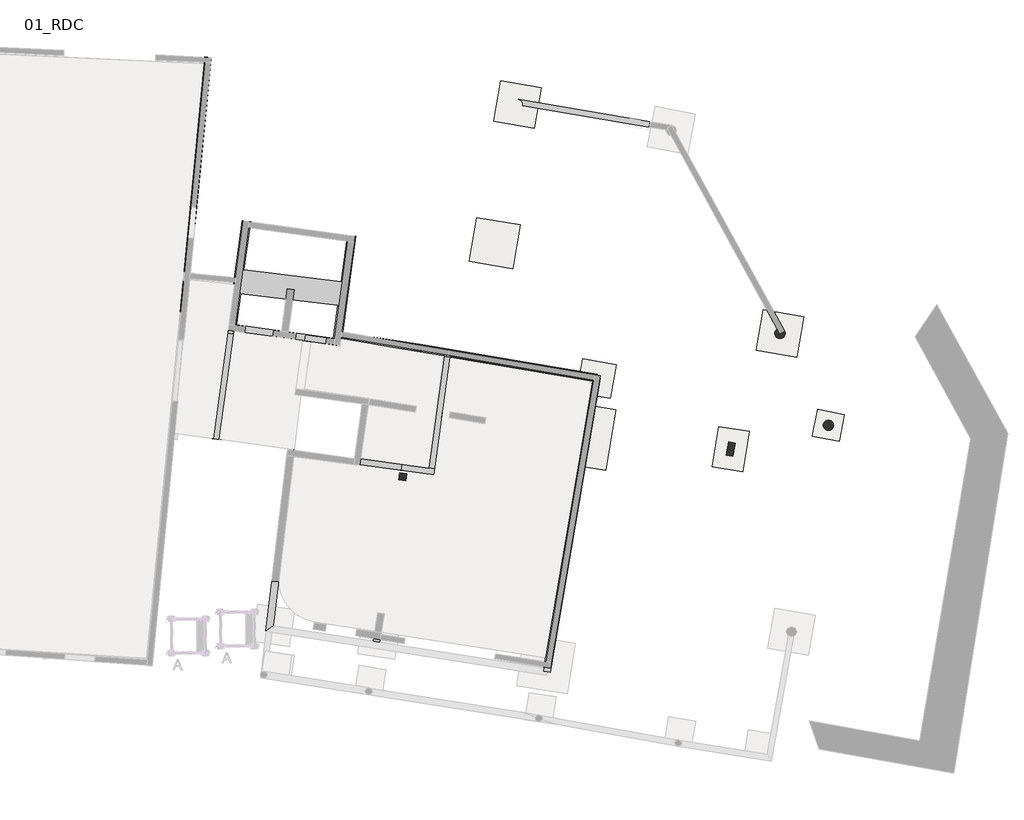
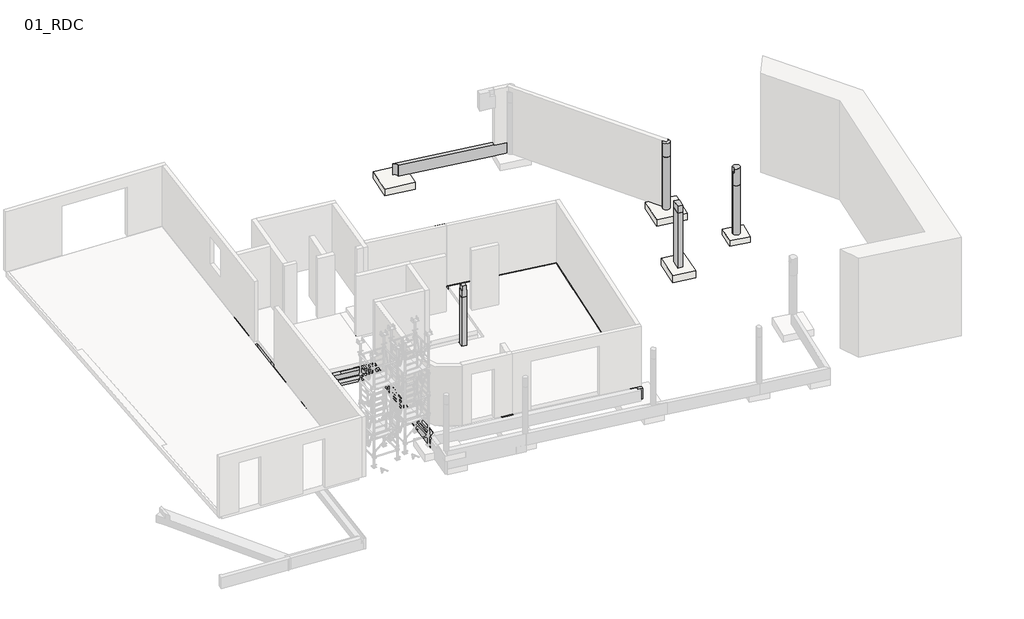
# One storey, part 4 of 5: 18 beams, 7 slabs, 4 columns.
"""IFC4 building model written with IfcOpenShell, lengths in millimetres."""

from ifc_helpers import new_model, si_unit, point, frame, frame_2d, origin, place, context, project, spatial, polyline, circle_curve, trimmed, segment, composite_curve, outline, extrude, faceted_brep, transform, mapped, element, save
from ifc_brep_helpers import plane_surface, cylinder_surface, revolved_surface, advanced_brep
from components import base_rectangulaire_90de8d64, base_rectangulaire_120x120x30_ht_74231e7a, base_rectangulaire_130x130x35_cm_f800fba0, base_rectangulaire_80x80x25_cm_97e52a6d

model = new_model("IFC4")

# Units and contexts
model_context = context("Model", 3, world=origin())
ifc_project = project(units=[si_unit("LENGTHUNIT", "METRE", prefix="MILLI")], contexts=[model_context])

# Site, building, storey
site = spatial("IfcSite", under=ifc_project)
building = spatial("IfcBuilding", under=site)
storey = spatial("IfcBuildingStorey", under=building, Name="01_RDC", Elevation=21740.0)

# Beams
placement = place(None, origin())
element("IfcBeam", 1, ObjectType="Poutre_Rect_2013_JBE : 16x50ht", at=placement, inside=storey, context=model_context, shape_type="AdvancedBrep", body=[
    advanced_brep(
    [(19991.2796527, 14471.8493206, 21470.0), (15481.1637696, 15237.3586937, 21470.0), (15481.1637696, 15237.3586937, 21970.0), (19347.1963618, 14581.170635, 21970.0), (19347.1963618, 14581.170635, 21940.0), (19991.2796527, 14471.8493206, 21940.0), (19991.1626945, 14471.1602433, 21470.0), (19816.9051622, 14339.1578468, 21470.0), (15602.9762725, 15054.3949152, 21470.0), (15605.9460596, 15084.095361, 21470.0), (15480.2728285, 15232.1095776, 21470.0), (15602.9762725, 15054.3949152, 21970.0), (19816.9051622, 14339.1578468, 21940.0), (19320.4222266, 14423.4267106, 21940.0), (19320.4222266, 14423.4267106, 21970.0), (15480.2728285, 15232.1095776, 21970.0), (15605.9460596, 15084.095361, 21970.0), (19991.1626945, 14471.1602433, 21940.0)],
    [
        (0, 1),
        (1, 2),
        (2, 3),
        (3, 4),
        (4, 5),
        (5, 0),
        (0, 6),
        (6, 7, circle_curve(frame((19966.0619427, 14323.2753142, 21470.0), z_axis=(0.0, 0.0, 1.0), x_axis=(1.0, 0.0, 0.0)), 150.0)),
        (7, 8),
        (8, 9, circle_curve(frame((15455.9460596, 15084.095361, 21470.0), z_axis=(0.0, 0.0, 1.0), x_axis=(1.0, 0.0, 0.0)), 150.0)),
        (9, 10, circle_curve(frame((15455.9460596, 15084.095361, 21470.0), z_axis=(0.0, 0.0, 1.0), x_axis=(1.0, 0.0, 0.0)), 150.0)),
        (10, 1),
        (11, 8),
        (7, 12),
        (12, 13),
        (13, 14),
        (14, 11),
        (15, 16, circle_curve(frame((15455.9460596, 15084.095361, 21970.0), z_axis=(0.0, 0.0, -1.0), x_axis=(1.0, 0.0, 0.0)), 150.0)),
        (16, 11, circle_curve(frame((15455.9460596, 15084.095361, 21970.0), z_axis=(0.0, 0.0, -1.0), x_axis=(1.0, 0.0, 0.0)), 150.0)),
        (14, 3),
        (2, 15),
        (6, 17),
        (17, 12, circle_curve(frame((19966.0619427, 14323.2753142, 21940.0), z_axis=(0.0, 0.0, 1.0), x_axis=(1.0, 0.0, 0.0)), 150.0)),
        (9, 16),
        (15, 10),
        (5, 17),
        (4, 13),
    ],
    [
        plane_surface(frame((15481.1637696, 15237.3586937, 21970.0), z_axis=(0.16733834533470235, 0.9858995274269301, 0.0), x_axis=(0.9858995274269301, -0.16733834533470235, 0.0))),
        plane_surface(frame((15481.1637696, 15237.3586937, 21470.0), z_axis=(0.0, 0.0, -1.0000000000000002), x_axis=(0.9858995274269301, -0.16733834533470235, 0.0))),
        plane_surface(frame((15454.3896344, 15079.6147693, 21470.0), z_axis=(-0.16733834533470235, -0.9858995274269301, 0.0), x_axis=(0.9858995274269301, -0.16733834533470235, 0.0))),
        plane_surface(frame((15454.3896344, 15079.6147693, 21970.0), z_axis=(0.0, 0.0, 1.0000000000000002), x_axis=(0.9858995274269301, -0.16733834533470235, 0.0))),
        revolved_surface(polyline([(20116.0619427, 14323.2753142, 21940.0), (20116.0619427, 14323.2753142, 21470.0)]), (19966.0619427, 14323.2753142, 21470.0), (0.0, 0.0, 1.0)),
        revolved_surface(polyline([(15605.9460596, 15084.095361, 21970.0), (15605.9460596, 15084.095361, 21470.0)]), (15455.9460596, 15084.095361, 21470.0), (0.0, 0.0, 1.0)),
        plane_surface(frame((15467.776702, 15158.4867315, 21740.0), z_axis=(-0.98589952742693, 0.16733834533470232, 0.0), x_axis=(0.16733834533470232, 0.98589952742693, 0.0))),
        plane_surface(frame((19977.8925851, 14392.9773584, 21740.0), z_axis=(0.98589952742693, -0.16733834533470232, 0.0), x_axis=(0.16733834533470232, 0.98589952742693, 0.0))),
        plane_surface(frame((19320.4222266, 14423.4267106, 21940.0), z_axis=(0.0, 0.0, 1.0000000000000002), x_axis=(0.16733834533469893, 0.9858995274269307, 0.0))),
        plane_surface(frame((19320.4222266, 14423.4267106, 24440.0), z_axis=(0.9858995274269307, -0.16733834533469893, 0.0), x_axis=(0.16733834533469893, 0.9858995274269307, 0.0))),
    ],
    [
        (0, [[1, 2, 3, 4, 5, 6]]),
        (1, [[-1, 7, 8, 9, 10, 11, 12]]),
        (2, [[13, -9, 14, 15, 16, 17]]),
        (3, [[18, 19, -17, 20, -3, 21]]),
        (4, [[-8, 22, 23, -14]]),
        (5, [[24, -18, 25, -11]]),
        (5, [[-24, -10, -13, -19]]),
        (6, [[-2, -12, -25, -21]]),
        (7, [[-7, -6, 26, -22]]),
        (8, [[27, -15, -23, -26, -5]]),
        (9, [[-27, -4, -20, -16]]),
    ],
),
])
element("IfcBeam", 2, ObjectType="Poutre_Rect_2013_JBE : 18x38ht", at=placement, inside=storey, context=model_context, shape_type="Brep", body=[
    faceted_brep([(8889.9631119, 4965.6993009, 21360.0), (9105.7161917, 6549.5114826, 21360.0), (9105.7161917, 6549.5114826, 21580.0), (8889.9631119, 4965.6993009, 21580.0), (8927.6739062, 6573.7650939, 21360.0), (8711.6103325, 4989.9951045, 21360.0), (8939.5113813, 6662.9837712, 21360.0), (8939.8218592, 6662.9414766, 21360.0), (8711.6103325, 4989.9951045, 21580.0), (8927.5367777, 6575.0799365, 21580.0), (8927.5367786, 6575.0799433, 21740.0), (8939.5113813, 6662.9837712, 21740.0), (8939.5113813, 6662.9837712, 21580.0), (8939.8218592, 6662.9414766, 21740.0), (8927.8469567, 6575.0354332, 21740.0), (8927.6739062, 6573.7650939, 21580.0), (8927.8469567, 6575.0354332, 21580.0)], [[[0, 1, 2, 3]], [[4, 1, 0, 5, 6, 7]], [[6, 5, 8, 9, 10, 11, 12]], [[13, 11, 10, 14]], [[7, 6, 12, 11, 13]], [[1, 4, 15, 2]], [[5, 0, 3, 8]], [[16, 9, 8, 3, 2, 15]], [[9, 16, 14, 10]], [[4, 7, 13, 14, 16, 15]]]),
])
element("IfcBeam", 3, ObjectType="Poutre_Rect_2013_JBE : 18x40ht", at=placement, inside=storey, context=model_context, shape_type="SweptSolid", body=[
    extrude(outline(polyline([(13290.559323, 7707.0019068), (13468.1163602, 7676.8646484), (13022.1130543, 4402.8042135), (12843.7602749, 4427.100017), (13290.559323, 7707.0019068)])), frame((0.0, 0.0, 18890.0), z_axis=(0.0, 0.0, 1.0), x_axis=(1.0, 0.0, 0.0)), (0.0, 0.0, 1.0), 100.0),
])
element("IfcBeam", 4, ObjectType="Poutre_Rect_2013_JBE : 18x50ht", at=placement, inside=storey, context=model_context, shape_type="Brep", body=[
    faceted_brep([(13007.7257385, 4223.1016672, 18490.0), (13032.021542, 4401.4544466, 18490.0), (13032.021542, 4401.4544466, 18790.0), (13007.7257385, 4223.1016672, 18790.0), (10738.6819538, 4532.1982918, 18490.0), (12050.9905985, 4353.431282, 18790.0), (12050.9905985, 4353.431282, 18590.0), (10738.6819538, 4532.1982918, 18590.0), (10762.9778639, 4710.5510567, 18490.0), (10852.1542536, 4698.4031549, 18490.0), (10762.9778639, 4710.5510567, 18590.0), (12081.1413089, 4530.9864867, 18590.0), (12081.1413089, 4530.9864867, 18790.0)], [[[0, 1, 2, 3]], [[4, 0, 3, 5, 6, 7]], [[1, 0, 4, 8, 9]], [[2, 1, 9, 8, 10, 11, 12]], [[8, 4, 7, 10]], [[3, 2, 12, 5]], [[6, 11, 10, 7]], [[11, 6, 5, 12]]]),
])
element("IfcBeam", 5, ObjectType="Poutre_Rect_2013_JBE : 20x50ht", at=placement, inside=storey, context=model_context, shape_type="Brep", body=[
    faceted_brep([(6480.1908575, 16459.4235534, 18990.0), (6480.1908575, 16459.4235534, 18490.0), (6281.1407174, 16478.8925464, 18490.0), (6281.1407174, 16478.8925464, 18990.0), (5663.9736381, 10169.0031024, 18490.0), (5863.0237783, 10149.5341093, 18490.0), (5863.0237783, 10149.5341093, 18990.0), (5697.0231221, 10165.7705491, 18990.0), (5697.0231221, 10165.7705491, 18790.0), (5663.9736381, 10169.0031024, 18790.0), (6264.8089536, 16311.9173018, 18790.0), (6264.8089536, 16311.9173018, 18990.0), (6293.3502984, 16310.5332659, 18990.0), (6293.3502984, 16310.5332659, 18790.0)], [[[0, 1, 2, 3]], [[4, 5, 6, 7, 8, 9]], [[1, 0, 6, 5]], [[2, 1, 5, 4]], [[3, 2, 4, 9, 10, 11]], [[0, 3, 11, 12, 7, 6]], [[8, 13, 10, 9]], [[13, 12, 11, 10]], [[12, 13, 8, 7]]]),
])
element("IfcBeam", 6, ObjectType="Poutre_Rect_2013_JBE : 20x50ht", at=placement, inside=storey, context=model_context, shape_type="Brep", body=[
    faceted_brep([(7214.4496833, 8621.8960762, 18990.0), (10055.3532785, 8232.7487058, 18990.0), (10055.3532785, 8232.7487058, 18790.0), (7214.4496833, 8621.8960762, 18790.0), (7187.3071176, 8423.7464329, 18990.0), (10275.8977668, 8000.6708554, 18990.0), (10245.0151155, 8033.1685133, 18990.0), (10242.5944936, 8015.3934284, 18990.0), (9208.4149254, 8156.2747313, 18990.0), (9232.7110596, 8334.6274657, 18990.0), (10066.4723317, 8221.0481823, 18990.0), (10242.5944936, 8015.3934284, 18790.0), (10245.0151155, 8033.1685133, 18790.0), (10064.241759, 8039.6895627, 18790.0), (9208.4149254, 8156.2747313, 18790.0), (9232.7110596, 8334.6274657, 18790.0), (10066.4723317, 8221.0481823, 18790.0), (10275.8977668, 8000.6708554, 18790.0), (7187.3071176, 8423.7464329, 18790.0)], [[[0, 1, 2, 3]], [[0, 4, 5, 6, 7, 8, 9, 10, 1]], [[11, 7, 6, 12]], [[7, 11, 13, 14, 8]], [[10, 9, 15, 16]], [[15, 9, 8, 14]], [[3, 2, 16, 15, 14, 13, 11, 12, 17, 18]], [[5, 4, 18, 17]], [[1, 10, 16, 2]], [[6, 5, 17, 12]], [[4, 0, 3, 18]]]),
    faceted_brep([(10055.3532785, 8232.7487058, 18490.0), (10275.8977668, 8000.6708554, 18490.0), (7187.3071176, 8423.7464329, 18490.0), (7214.4496833, 8621.8960762, 18490.0), (10275.8977668, 8000.6708554, 18590.0), (7187.3071176, 8423.7464329, 18590.0), (10055.3532785, 8232.7487058, 18590.0), (7214.4496833, 8621.8960762, 18590.0)], [[[0, 1, 2, 3]], [[2, 1, 4, 5]], [[1, 0, 6, 4]], [[3, 2, 5, 7]], [[6, 7, 5, 4]], [[0, 3, 7, 6]]]),
])
element("IfcBeam", 7, ObjectType="Poutre_Rect_2013_JBE : 20x50ht", at=placement, inside=storey, context=model_context, shape_type="Brep", body=[
    faceted_brep([(13474.7515979, 7675.7384307, 18990.0), (13474.7515979, 7675.7384307, 18490.0), (13508.2194947, 7872.9182975, 18490.0), (13508.2194947, 7872.9182975, 18990.0), (13468.1163602, 7676.8646484, 18990.0), (13290.559323, 7707.0019068, 18990.0), (13280.6950431, 7708.6761989, 18990.0), (10305.0833494, 8213.7351927, 18990.0), (10305.0833494, 8213.7351927, 18790.0), (12639.2343232, 7817.5531422, 18790.0), (12639.2343232, 7817.5531422, 18590.0), (10305.0833494, 8213.7351927, 18590.0), (10305.0833494, 8213.7351927, 18490.0), (10332.239816, 8411.9863165, 18490.0), (10332.239816, 8411.9863165, 18990.0), (13307.7048557, 7906.9522147, 18990.0), (13504.9904525, 7873.466372, 18990.0), (10310.4203579, 8252.6971075, 18590.0), (10310.4203579, 8252.6971075, 18790.0), (12645.7847462, 7856.1280773, 18590.0), (12645.7847462, 7856.1280773, 18790.0)], [[[0, 1, 2, 3]], [[1, 0, 4, 5, 6, 7, 8, 9, 10, 11, 12]], [[2, 1, 12, 13]], [[3, 2, 13, 14, 15, 16]], [[0, 3, 16, 15, 14, 7, 6, 5, 4]], [[13, 12, 11, 17, 18, 8, 7, 14]], [[10, 19, 17, 11]], [[18, 20, 9, 8]], [[19, 20, 18, 17]], [[20, 19, 10, 9]]]),
])
element("IfcBeam", 8, ObjectType="Poutre_Rect_2013_JBE : 20x50ht", at=placement, inside=storey, context=model_context, shape_type="Brep", body=[
    faceted_brep([(12682.66215, 8034.8558487, 21740.0), (12682.66215, 8034.8558487, 21240.0), (12679.0633832, 8013.6533108, 21240.0), (12679.0633832, 8013.6533108, 21740.0), (13480.8849759, 7696.5107618, 21740.0), (13480.8849759, 7696.5107618, 21240.0), (17661.369599, 6986.9452759, 21240.0), (17661.369599, 6986.9452759, 21740.0), (17793.4272015, 7167.391233, 21240.0), (17776.693367, 7068.8012802, 21240.0), (17678.1034142, 7085.5351148, 21240.0), (13504.9904525, 7873.466372, 21240.0), (17793.4272015, 7167.391233, 21740.0), (13307.7048557, 7906.9522147, 21740.0), (13504.9904525, 7873.466372, 21740.0), (17678.1034142, 7085.5351148, 21740.0), (17776.693367, 7068.8012802, 21740.0)], [[[0, 1, 2, 3]], [[4, 5, 6, 7]], [[1, 8, 9, 10, 6, 5, 11, 2]], [[1, 0, 12, 8]], [[12, 0, 3, 13, 14, 4, 7, 15, 16]], [[14, 11, 5, 4]], [[11, 14, 13, 3, 2]], [[8, 12, 16, 9]], [[15, 10, 9, 16]], [[10, 15, 7, 6]]]),
])
element("IfcBeam", 9, ObjectType="Poutre_Rect_2013_JBE : 20x50ht", at=placement, inside=storey, context=model_context, shape_type="Brep", body=[
    faceted_brep([(12650.4936255, 7837.4642257, 21740.0), (12650.4936255, 7837.4642257, 21240.0), (12681.3627776, 8035.0676048, 21240.0), (12681.3627776, 8035.0676048, 21740.0), (11067.3626498, 8287.2030475, 21740.0), (11067.3626498, 8287.2030475, 21240.0), (11036.4934976, 8089.5996683, 21240.0), (11036.4934976, 8089.5996683, 21510.0), (11037.8423089, 8098.2338434, 21510.0), (11037.8423089, 8098.2338434, 21740.0), (11692.2870369, 7987.1530877, 21740.0), (11692.2870369, 7987.1530877, 21510.0)], [[[0, 1, 2, 3]], [[4, 5, 6, 7, 8, 9]], [[1, 0, 10, 11, 7, 6]], [[2, 1, 6, 5]], [[3, 2, 5, 4]], [[0, 3, 4, 9, 10]], [[11, 8, 7]], [[8, 11, 10, 9]]]),
])
element("IfcBeam", 10, ObjectType="Poutre_Rect_2013_JBE : 20x50ht", at=placement, inside=storey, context=model_context, shape_type="Brep", body=[
    faceted_brep([(17756.3616489, 6949.0138449, 21740.0), (17756.3616489, 6949.0138449, 21240.0), (17776.693367, 7068.8012802, 21240.0), (17789.829318, 7146.1937503, 21240.0), (17789.829318, 7146.1937503, 21740.0), (17776.693367, 7068.8012802, 21740.0), (17657.7716962, 6965.7476794, 21740.0), (13379.3378421, 7691.9332813, 21740.0), (13379.3378421, 7691.9332813, 21240.0), (17657.7716962, 6965.7476794, 21240.0), (13406.3476536, 7890.2092896, 21240.0), (13406.3476536, 7890.2092896, 21740.0)], [[[0, 1, 2, 3, 4, 5]], [[1, 0, 6, 7, 8, 9]], [[3, 2, 1, 9, 8, 10]], [[4, 3, 10, 11]], [[0, 5, 4, 11, 7, 6]], [[7, 11, 10, 8]]]),
])
element("IfcBeam", 11, ObjectType="Poutre_Rect_2013_JBE : 20x50ht", at=placement, inside=storey, context=model_context, shape_type="Brep", body=[
    faceted_brep([(16215.566276, -1531.2267549, 21740.0), (16215.566276, -1531.2267549, 21240.0), (16314.1562288, -1547.9605895, 21240.0), (16412.7461815, -1564.694424, 21240.0), (16412.7461815, -1564.694424, 21740.0), (16314.1562288, -1547.9605895, 21740.0), (17875.2833197, 7052.0674457, 21740.0), (17875.2833197, 7052.0674457, 21240.0), (17776.693367, 7068.8012802, 21240.0), (17776.693367, 7068.8012802, 21740.0), (16232.0812623, -1433.9261801, 21740.0), (17358.2985513, 5201.355714, 21740.0), (17391.7662204, 5398.5356194, 21740.0), (17657.7716962, 6965.7476794, 21740.0), (17657.7716962, 6965.7476794, 21240.0), (17391.7662204, 5398.5356194, 21240.0), (17358.2985513, 5201.355714, 21240.0), (16232.0812623, -1433.9261801, 21240.0), (17756.3616489, 6949.0138449, 21240.0), (17756.3616489, 6949.0138449, 21740.0)], [[[0, 1, 2, 3, 4, 5]], [[6, 7, 8, 9]], [[1, 0, 10, 11, 12, 13, 14, 15, 16, 17]], [[3, 2, 1, 17, 16, 15, 14, 18, 8, 7]], [[4, 3, 7, 6]], [[0, 5, 4, 6, 9, 19, 13, 12, 11, 10]], [[18, 19, 9, 8]], [[19, 18, 14, 13]]]),
])
element("IfcBeam", 12, ObjectType="Poutre_Rect_2013_JBE : 20x50ht", at=placement, inside=storey, context=model_context, shape_type="Brep", body=[
    faceted_brep([(8293.8700266, -193.836809, 21740.0), (8293.8700266, -193.836809, 21240.0), (8900.8346114, 4782.5559155, 21240.0), (8900.8346114, 4782.5559155, 21740.0), (8071.9270956, -361.5910753, 21240.0), (8702.645377, 4809.5539064, 21240.0), (8071.9270956, -361.5910753, 21579.7), (8702.4579048, 4808.0168559, 21579.7), (8702.4579048, 4808.0168559, 21739.7), (8071.9270956, -361.5910753, 21739.7), (8071.9270956, -361.5910753, 21740.0), (8702.645377, 4809.5539064, 21740.0), (8281.201859, -203.4119693, 21739.7), (8281.201859, -203.4119693, 21579.7), (8720.5694026, 3411.5349004, 21579.7), (8887.8168754, 4782.7666459, 21579.7), (8887.8168754, 4782.7666459, 21739.7), (8720.5694026, 3411.5349004, 21739.7)], [[[0, 1, 2, 3]], [[1, 4, 5, 2]], [[4, 6, 7, 8, 9, 10, 11, 5]], [[10, 0, 3, 11]], [[0, 10, 9, 12, 13, 6, 4, 1]], [[14, 15, 7, 6, 13]], [[16, 17, 12, 9, 8]], [[17, 14, 13, 12]], [[15, 16, 8, 7]], [[15, 14, 17, 16]], [[3, 2, 5, 11]]]),
])
element("IfcBeam", 13, ObjectType="Poutre_Rect_2013_JBE : 20x50ht", at=placement, inside=storey, context=model_context, shape_type="Brep", body=[
    faceted_brep([(12231.9663776, 4510.4405986, 21240.0), (12469.5258319, 6031.1351335, 21240.0), (12500.397659, 6228.7556355, 21240.0), (12745.7711516, 7799.4703449, 21240.0), (12745.7711516, 7799.4703449, 21510.0), (12500.397659, 6228.7556355, 21510.0), (12469.5258319, 6031.1351335, 21510.0), (12231.9663776, 4510.4405986, 21510.0), (12548.5741956, 7832.9411423, 21240.0), (12033.758648, 4537.4411089, 21240.0), (12272.3288403, 6064.6057026, 21240.0), (12303.2006673, 6262.2262046, 21240.0), (12033.758648, 4537.4411089, 21510.0), (12272.3288403, 6064.6057026, 21510.0), (12303.2006673, 6262.2262046, 21510.0), (12548.5741956, 7832.9411423, 21510.0)], [[[0, 1, 2, 3, 4, 5, 6, 7]], [[8, 3, 2, 1, 0, 9, 10, 11]], [[8, 11, 10, 9, 12, 13, 14, 15]], [[3, 8, 15, 4]], [[9, 0, 7, 12]], [[7, 6, 5, 4, 15, 14, 13, 12]]]),
    faceted_brep([(11420.7661102, -682.3134296, 21240.0), (11420.7661102, -682.3134296, 21740.0), (11223.162731, -651.4442774, 21740.0), (11223.162731, -651.4442774, 21240.0), (11268.1257774, -363.6213444, 21580.0), (11465.7272599, -394.5026379, 21580.0), (12203.9311908, 4330.9783438, 21580.0), (12005.7235844, 4357.9796423, 21580.0), (12203.9311908, 4330.9783438, 21740.0), (12005.7235844, 4357.9796423, 21740.0), (11268.1257774, -363.6213444, 21740.0), (11465.7272599, -394.5026379, 21740.0), (12204.1788169, 4332.5634778, 21740.0), (12204.1788169, 4332.5634778, 21240.0), (12005.9710873, 4359.5639882, 21240.0), (12005.9710873, 4359.5639882, 21740.0)], [[[0, 1, 2, 3]], [[4, 5, 6, 7]], [[7, 6, 8, 9]], [[5, 4, 10, 11]], [[2, 1, 11, 10]], [[12, 13, 14, 15]], [[1, 0, 13, 12, 8, 6, 5, 11]], [[0, 3, 14, 13]], [[3, 2, 10, 4, 7, 9, 15, 14]], [[9, 8, 12, 15]]]),
])
element("IfcBeam", 14, ObjectType="Poutre_Rect_2013_JBE : 20x50ht", at=placement, inside=storey, context=model_context, shape_type="Brep", body=[
    faceted_brep([(17358.2985513, 5201.355714, 21240.0), (17358.2985513, 5201.355714, 21740.0), (17348.4380179, 5203.0293585, 21740.0), (17348.4380179, 5203.0293585, 21580.0), (13236.2952851, 5900.9900954, 21580.0), (13236.293278, 5900.9904361, 21240.0), (17391.7662204, 5398.5356194, 21240.0), (13263.3030895, 6099.2664443, 21240.0), (17391.7662204, 5398.5356194, 21740.0), (13263.3030895, 6099.2664443, 21580.0), (17381.905687, 5400.209264, 21580.0), (17381.905687, 5400.209264, 21740.0)], [[[0, 1, 2, 3, 4, 5]], [[6, 0, 5, 7]], [[8, 6, 7, 9, 10, 11]], [[1, 8, 11, 2]], [[1, 0, 6, 8]], [[3, 10, 9, 4]], [[10, 3, 2, 11]], [[5, 4, 9, 7]]]),
    faceted_brep([(11005.9472776, 6472.3170748, 21240.0), (11092.2030898, 6460.5669732, 21240.0), (11092.2030898, 6460.5669732, 21510.0), (11005.9472776, 6472.3170748, 21510.0), (11066.1523182, 6269.3320239, 21240.0), (11066.1523182, 6269.3320239, 21510.0), (11007.6125863, 6482.1284966, 21240.0), (11007.6125863, 6482.1284966, 21510.0), (12272.3288403, 6064.6057026, 21240.0), (12303.2006673, 6262.2262046, 21240.0), (12303.2006673, 6262.2262046, 21510.0), (12272.3288403, 6064.6057026, 21510.0)], [[[0, 1, 2, 3]], [[1, 4, 5, 2]], [[6, 0, 3, 7]], [[8, 9, 10, 11]], [[4, 8, 11, 5]], [[0, 6, 9, 8, 4, 1]], [[9, 6, 7, 10]], [[3, 2, 5, 11, 10, 7]]]),
    faceted_brep([(12500.397659, 6228.7556355, 21240.0), (12469.5258319, 6031.1351335, 21240.0), (12469.5258319, 6031.1351335, 21510.0), (12500.397659, 6228.7556355, 21510.0), (13039.0076499, 5934.4760496, 21240.0), (13066.0174614, 6132.7520579, 21240.0), (13066.0174614, 6132.7520579, 21510.0), (13039.0076499, 5934.4760496, 21510.0)], [[[0, 1, 2, 3]], [[4, 5, 6, 7]], [[1, 4, 7, 2]], [[1, 0, 5, 4]], [[5, 0, 3, 6]], [[3, 2, 7, 6]]]),
])
element("IfcBeam", 15, ObjectType="Poutre_Rect_2013_JBE : 20x90ht", at=placement, inside=storey, context=model_context, shape_type="Brep", body=[
    faceted_brep([(5833.9179313, 9903.0673823, 20840.0), (5822.8896161, 9904.1511135, 20840.0), (5822.8896161, 9904.1511135, 21740.0), (5833.9179313, 9903.0673823, 21740.0), (5833.9179313, 9903.0673823, 21739.3), (5826.4364882, 9903.8025692, 21739.3), (5826.4364882, 9903.8025692, 21579.3), (5833.9179313, 9903.0673823, 21579.3), (5544.9034043, 9007.0369122, 20840.0), (5743.9446809, 8987.47751, 20840.0), (5743.9446809, 8987.47751, 21579.3), (5737.5712097, 8988.1038187, 21579.3), (5737.5712097, 8988.1038187, 21739.3), (5743.9446809, 8987.47751, 21739.3), (5743.9446809, 8987.47751, 21740.0), (5554.8554062, 9006.0589482, 21740.0), (5554.8554062, 9006.0589482, 21510.0), (5544.9034043, 9007.0369122, 21510.0), (5634.8766547, 9922.6267845, 20840.0), (5643.7523434, 9921.7545877, 20840.0), (5643.5584676, 9919.7575422, 20840.0), (5822.7161863, 9902.3646752, 20840.0), (5634.8766547, 9922.6267845, 21510.0), (5822.7161863, 9902.3646752, 21740.0), (5643.5584676, 9919.7575422, 21740.0), (5643.7523434, 9921.7545877, 21510.0), (5643.5584676, 9919.7575422, 21510.0)], [[[0, 1, 2, 3, 4, 5, 6, 7]], [[8, 9, 10, 11, 12, 13, 14, 15, 16, 17]], [[3, 14, 13, 4]], [[9, 8, 18, 19, 20, 21, 1, 0]], [[18, 8, 17, 22]], [[14, 3, 2, 23, 24, 15]], [[20, 19, 25, 26]], [[21, 23, 2, 1]], [[23, 21, 20, 26, 24]], [[19, 18, 22, 25]], [[17, 16, 26, 25, 22]], [[16, 15, 24, 26]], [[6, 11, 10, 7]], [[12, 5, 4, 13]], [[11, 6, 5, 12]], [[9, 0, 7, 10]]]),
])
element("IfcBeam", 16, ObjectType="Poutre_Rect_2013_JBE : 25x50ht", at=placement, inside=storey, context=model_context, shape_type="Brep", body=[
    faceted_brep([(6753.2669636, 5255.1107755, 18990.0), (6505.5799096, 5289.0389827, 18990.0), (6505.5799096, 5289.0389827, 18790.0), (6753.2669636, 5255.1107755, 18790.0), (7628.1964811, 11642.3835701, 18490.0), (7380.5094271, 11676.3117772, 18490.0), (7380.5094271, 11676.3117772, 18990.0), (7410.506314, 11672.2027995, 18990.0), (7410.506314, 11672.2027995, 18790.0), (7588.840993, 11647.7744903, 18790.0), (7628.1964811, 11642.3835701, 18790.0), (6505.5799096, 5289.0389827, 18490.0), (6505.5799096, 5289.0389827, 18590.0), (7131.0522929, 9855.1927789, 18590.0), (7131.0522929, 9855.1927789, 18790.0), (6753.2669636, 5255.1107755, 18490.0), (7435.1339518, 10232.9637061, 18490.0), (7306.3502671, 10248.6712959, 18490.0), (7211.3404789, 9555.0720114, 18490.0), (7340.1246175, 9539.3643662, 18490.0), (7214.4496833, 8621.8960762, 18490.0), (7187.3071176, 8423.7464329, 18490.0), (7340.1246175, 9539.3643662, 18590.0), (6753.2669636, 5255.1107755, 18590.0), (7187.3071176, 8423.7464329, 18990.0), (7214.4496833, 8621.8960762, 18990.0), (7340.1246175, 9539.3643662, 18990.0), (7300.6881572, 9544.1743834, 18990.0), (7137.3237804, 8351.56658, 18990.0), (6958.9891174, 8375.9950056, 18990.0), (7155.631738, 9811.5437363, 18990.0), (7182.7941059, 10009.8369783, 18990.0), (7603.768172, 11464.0488911, 18790.0), (7564.4125673, 11469.4398273, 18790.0), (7564.4125673, 11469.4398273, 18990.0), (7603.768172, 11464.0488911, 18990.0), (7161.2044527, 9852.2261864, 18790.0), (7250.8369038, 9843.4074827, 18790.0), (7306.3502671, 10248.6712959, 18790.0), (7395.6979455, 10237.7736679, 18790.0), (7340.1246175, 9539.3643662, 18790.0), (7300.6881572, 9544.1743834, 18790.0), (7435.1339518, 10232.9637061, 18590.0), (7402.6386996, 10236.9271126, 18590.0), (7402.6386996, 10236.9271126, 18790.0), (7435.1339518, 10232.9637061, 18790.0), (7435.1339518, 10232.9637061, 18990.0), (7395.6979455, 10237.7736679, 18990.0), (7250.8369038, 9843.4074827, 18590.0), (7211.3404789, 9555.0720114, 18590.0), (7602.4333388, 11454.3041708, 18790.0), (7602.4333388, 11454.3041708, 18590.0), (7570.7251909, 11458.6220734, 18790.0), (7570.7251909, 11458.6220734, 18590.0), (6958.9891174, 8375.9950056, 18790.0), (7137.3237804, 8351.56658, 18790.0)], [[[0, 1, 2, 3]], [[4, 5, 6, 7, 8, 9, 10]], [[6, 5, 11, 12, 13, 14, 2, 1]], [[15, 11, 5, 4, 16, 17, 18, 19, 20, 21]], [[15, 21, 20, 19, 22, 23]], [[1, 0, 24, 25, 26, 27, 28, 29, 30, 31, 7, 6]], [[32, 33, 34, 35]], [[33, 32, 10, 9, 8, 36, 37, 38, 39]], [[26, 40, 41, 27]], [[17, 16, 42, 43, 44, 45, 46, 47, 39, 38]], [[18, 17, 38, 37, 48, 49]], [[32, 35, 46, 45, 50, 51, 42, 16, 4, 10]], [[48, 13, 12, 23, 22, 49]], [[44, 52, 50, 45]], [[53, 52, 44, 43]], [[52, 53, 51, 50]], [[13, 48, 37, 36, 14]], [[11, 15, 23, 12]], [[26, 25, 24, 0, 3, 40]], [[19, 18, 49, 22]], [[51, 53, 43, 42]], [[3, 2, 14, 36, 54, 55, 41, 40]], [[55, 28, 27, 41]], [[36, 8, 7, 31, 30, 29, 54]], [[28, 55, 54, 29]], [[35, 34, 47, 46]], [[33, 39, 47, 34]]]),
])
element("IfcBeam", 17, ObjectType="Poutre_Rect_2013_JBE : 25x50ht", at=placement, inside=storey, context=model_context, shape_type="Brep", body=[
    faceted_brep([(10716.7871304, 11219.3079925, 18990.0), (10716.7871304, 11219.3079925, 18490.0), (10469.1000763, 11253.2361997, 18490.0), (10469.1000763, 11253.2361997, 18790.0), (10679.5992344, 11224.4019957, 18790.0), (10679.5992344, 11224.4019957, 18990.0), (10332.239816, 8411.9863165, 18490.0), (10305.0833494, 8213.7351927, 18490.0), (10275.8977668, 8000.6708554, 18490.0), (10055.3532785, 8232.7487058, 18490.0), (10186.7738469, 9192.1620124, 18490.0), (10309.9705863, 9177.1358555, 18490.0), (10404.4344273, 9870.8017285, 18490.0), (10281.7831811, 9885.7613522, 18490.0), (10332.239816, 8411.9863165, 18990.0), (10305.0833494, 8213.7351927, 18990.0), (10275.8977668, 8000.6708554, 18990.0), (10275.8977668, 8000.6708554, 18790.0), (10305.0833494, 8213.7351927, 18790.0), (10310.4203579, 8252.6971075, 18790.0), (10310.4203579, 8252.6971075, 18590.0), (10305.0833494, 8213.7351927, 18590.0), (10275.8977668, 8000.6708554, 18590.0), (10315.0877577, 9881.6992334, 18990.0), (10315.0877577, 9881.6992334, 18790.0), (10475.957724, 11062.9978597, 18790.0), (10476.9761643, 11070.4764599, 18790.0), (10476.9761643, 11070.4764599, 18990.0), (10275.7132507, 8258.5907333, 18790.0), (10245.0151155, 8033.1685133, 18790.0), (10245.0151155, 8033.1685133, 18990.0), (10270.4063315, 8219.6210211, 18990.0), (10297.4078713, 8417.898441, 18990.0), (10404.4344273, 9870.8017285, 18790.0), (10309.9705863, 9177.1358555, 18790.0), (10225.9310796, 9187.3860522, 18790.0), (10102.1969994, 8288.0555876, 18790.0), (10444.6717671, 11074.9015208, 18790.0), (10483.838842, 11061.9246371, 18790.0), (10321.352792, 9880.9350948, 18790.0), (10186.7738469, 9192.1620124, 18590.0), (10225.9310796, 9187.3860522, 18590.0), (10321.352792, 9880.9350948, 18590.0), (10281.7831811, 9885.7613522, 18590.0), (10443.6439656, 11067.3982322, 18590.0), (10443.6439656, 11067.3982322, 18790.0), (10281.7831811, 9885.7613522, 18790.0), (10281.7831811, 9885.7613522, 18990.0), (10444.6717671, 11074.9015208, 18990.0), (10102.1969994, 8288.0555876, 18590.0), (10055.3532785, 8232.7487058, 18590.0), (10483.838842, 11061.9246371, 18590.0)], [[[0, 1, 2, 3, 4, 5]], [[2, 1, 6, 7, 8, 9, 10, 11, 12, 13]], [[1, 0, 14, 15, 16, 17, 18, 19, 20, 21, 22, 8, 7, 6]], [[23, 24, 25, 26, 27]], [[5, 4, 28, 29, 30, 31, 32]], [[33, 34, 35, 36, 28, 4, 3, 37, 26, 25, 38, 39]], [[34, 11, 10, 40, 41, 35]], [[12, 33, 39, 42, 43, 13]], [[11, 34, 33, 12]], [[2, 13, 43, 44, 45, 46, 47, 48, 37, 3]], [[23, 27, 48, 47]], [[20, 49, 41, 40, 50, 22, 21]], [[45, 25, 24, 46]], [[51, 38, 25, 45, 44]], [[38, 51, 42, 39]], [[36, 49, 20, 19, 28]], [[10, 9, 50, 40]], [[24, 23, 47, 46]], [[16, 30, 29, 17]], [[9, 8, 22, 50]], [[42, 51, 44, 43]], [[28, 19, 18, 17, 29]], [[49, 36, 35, 41]], [[26, 37, 48, 27]], [[16, 15, 14, 0, 5, 32, 31, 30]]]),
    faceted_brep([(10055.3532785, 8232.7487058, 18790.0), (10055.3532785, 8232.7487058, 18990.0), (10186.7738469, 9192.1620124, 18990.0), (10186.7738469, 9192.1620124, 18790.0), (10220.6239167, 9188.0333604, 18990.0), (10066.4723317, 8221.0481823, 18990.0), (10088.5300878, 8218.0433604, 18990.0), (10220.6239167, 9188.0333604, 18790.0), (10088.5300878, 8218.0433604, 18790.0), (10066.4723317, 8221.0481823, 18790.0)], [[[0, 1, 2, 3]], [[4, 2, 1, 5, 6]], [[7, 4, 6, 8]], [[8, 6, 5, 9]], [[5, 1, 0, 9]], [[4, 7, 3, 2]], [[0, 3, 7, 8, 9]]]),
])
element("IfcBeam", 18, ObjectType="Poutre_Rect_2013_JBE : 70x50ht", at=placement, inside=storey, context=model_context, shape_type="Brep", body=[
    faceted_brep([(10220.6239167, 9188.0333604, 18790.0), (10220.6239167, 9188.0333604, 18990.0), (10186.7738469, 9192.1620124, 18990.0), (7340.1246175, 9539.3643662, 18990.0), (7300.6881572, 9544.1743834, 18990.0), (7300.6881572, 9544.1743834, 18790.0), (7340.1246175, 9539.3643662, 18790.0), (10186.7738469, 9192.1620124, 18790.0), (10309.9705863, 9177.1358555, 18490.0), (10186.7738469, 9192.1620124, 18490.0), (7340.1246175, 9539.3643662, 18490.0), (7211.3404789, 9555.0720114, 18490.0), (7306.3502671, 10248.6712959, 18490.0), (7435.1339518, 10232.9637061, 18490.0), (10281.7831811, 9885.7613522, 18490.0), (10404.4344273, 9870.8017285, 18490.0), (7306.3502671, 10248.6712959, 18790.0), (7395.6979455, 10237.7736679, 18790.0), (7395.6979455, 10237.7736679, 18990.0), (7435.1339518, 10232.9637061, 18990.0), (10281.7831811, 9885.7613522, 18990.0), (10315.0877577, 9881.6992334, 18990.0), (10315.0877577, 9881.6992334, 18790.0), (10281.7831811, 9885.7613522, 18790.0), (7435.1339518, 10232.9637061, 18790.0), (7402.6386996, 10236.9271126, 18790.0), (7402.6386996, 10236.9271126, 18590.0), (7435.1339518, 10232.9637061, 18590.0), (10281.7831811, 9885.7613522, 18590.0), (10321.352792, 9880.9350948, 18590.0), (10321.352792, 9880.9350948, 18790.0), (10404.4344273, 9870.8017285, 18790.0), (10309.9705863, 9177.1358555, 18790.0), (7211.3404789, 9555.0720114, 18590.0), (7250.8369038, 9843.4074827, 18590.0), (7250.8369038, 9843.4074827, 18790.0), (10225.9310796, 9187.3860522, 18790.0), (7347.1921117, 9833.9273444, 18590.0), (7340.1246175, 9539.3643662, 18590.0), (10186.7738469, 9192.1620124, 18590.0), (10225.9310796, 9187.3860522, 18590.0), (7347.1921117, 9833.9273444, 18790.0), (7340.4693549, 9834.588779, 18790.0)], [[[0, 1, 2, 3, 4, 5, 6, 7]], [[8, 9, 10, 11, 12, 13, 14, 15]], [[15, 14, 13, 12, 16, 17, 18, 19, 20, 21, 22, 23, 24, 25, 26, 27, 28, 29, 30, 31]], [[1, 21, 20, 19, 18, 4, 3, 2]], [[8, 15, 31, 32]], [[12, 11, 33, 34, 35, 16]], [[1, 0, 22, 21]], [[32, 31, 30, 36]], [[37, 34, 33, 38, 39, 40, 29, 28, 27, 26]], [[41, 25, 24, 23, 22, 0, 7, 6, 5, 42]], [[41, 37, 26, 25]], [[29, 40, 36, 30]], [[37, 41, 42, 35, 34]], [[11, 10, 9, 8, 32, 36, 40, 39, 38, 33]], [[17, 42, 5, 4, 18]], [[42, 17, 16, 35]]]),
])

# Columns
element("IfcColumn", 19, ObjectType="Pot_Carré_2013_JBE : 20x40", at=placement, inside=storey, context=model_context, shape_type="SolidModel", body=[
    faceted_brep([(12151.9543128, 4056.4308614, 24440.0), (12179.0650675, 4234.190198, 24440.0), (12021.6337405, 4258.7837631, 24440.0), (11993.8685095, 4081.1393145, 24440.0), (12004.9979718, 4281.8279631, 23940.0), (11974.113388, 4084.2269953, 23940.0), (11974.113388, 4084.2269953, 24240.0), (12004.9979718, 4281.8279631, 24240.0), (12171.7143558, 4053.3424114, 23940.0), (12171.7143558, 4053.3424114, 24240.0), (12151.9542585, 4056.4308699, 24240.0), (11993.8685095, 4081.1393145, 24240.0), (12202.5989397, 4250.9433792, 23940.0), (12202.5989397, 4250.9433792, 24240.0), (12021.6337405, 4258.7837631, 24240.0), (12179.0650675, 4234.190198, 24240.0)], [[[0, 1, 2, 3]], [[4, 5, 6, 7]], [[5, 8, 9, 10, 0, 3, 11, 6]], [[8, 12, 13, 9]], [[12, 4, 7, 13]], [[5, 4, 12, 8]], [[9, 13, 7, 6, 11, 14, 15, 10]], [[10, 15, 1, 0]], [[1, 15, 14, 2]], [[14, 11, 3, 2]]]),
    extrude(outline(polyline([(12202.5989397, 4250.9433792), (12171.7143558, 4053.3424114), (11974.113388, 4084.2269953), (12004.9979718, 4281.8279631), (12202.5989397, 4250.9433792)])), frame((0.0, 0.0, 21740.0), z_axis=(0.0, 0.0, 1.0), x_axis=(1.0, 0.0, 0.0)), (0.0, 0.0, 1.0), 2200.0),
])
element("IfcColumn", 20, ObjectType="Pot_Circ_2013_JBE : diametre 30", at=placement, inside=storey, context=model_context, shape_type="SolidModel", body=[
    advanced_brep(
    [(24456.9211098, 5581.6022837, 24440.0), (24724.4257967, 5674.836658, 24440.0), (24443.5401794, 5748.1098125, 24440.0), (24475.8987248, 5687.6841597, 24440.0), (24424.4257967, 5674.836658, 23690.0), (24724.4257967, 5674.836658, 23690.0), (24456.9211098, 5581.6022837, 24240.0), (24424.4257967, 5674.836658, 24240.0), (24443.5401794, 5748.1098125, 24240.0), (24475.8987248, 5687.6841597, 24240.0)],
    [
        (0, 1, circle_curve(frame((24574.4257967, 5674.836658, 24440.0), z_axis=(0.0, 0.0, 1.0), x_axis=(1.0, 0.0, 0.0)), 150.0)),
        (1, 2, circle_curve(frame((24574.4257967, 5674.836658, 24440.0), z_axis=(0.0, 0.0, 1.0), x_axis=(1.0, 0.0, 0.0)), 150.0)),
        (2, 3),
        (3, 0),
        (4, 5, circle_curve(frame((24574.4257967, 5674.836658, 23690.0), z_axis=(0.0, 0.0, 1.0), x_axis=(1.0, 0.0, 0.0)), 150.0)),
        (5, 1),
        (0, 6),
        (6, 7, circle_curve(frame((24574.4257967, 5674.836658, 24240.0), z_axis=(0.0, 0.0, -1.0), x_axis=(1.0, 0.0, 0.0)), 150.0)),
        (7, 4),
        (5, 4, circle_curve(frame((24574.4257967, 5674.836658, 23690.0), z_axis=(0.0, 0.0, 1.0), x_axis=(1.0, 0.0, 0.0)), 150.0)),
        (7, 8, circle_curve(frame((24574.4257967, 5674.836658, 24240.0), z_axis=(0.0, 0.0, -1.0), x_axis=(1.0, 0.0, 0.0)), 150.0)),
        (8, 2),
        (6, 9),
        (9, 8),
        (9, 3),
    ],
    [
        plane_surface(frame((24724.4257967, 5674.836658, 24440.0), z_axis=(0.0, 0.0, 1.0), x_axis=(0.0, 1.0, 0.0))),
        cylinder_surface(frame((24574.4257967, 5674.836658, 23690.0), z_axis=(0.0, 0.0, 1.0), x_axis=(1.0, 0.0, 0.0)), 150.0),
        plane_surface(frame((24724.4257967, 5674.836658, 23690.0), z_axis=(0.0, 0.0, -1.0), x_axis=(0.0, -1.0, 0.0))),
        plane_surface(frame((23126.5284547, 8207.4692266, 24240.0), z_axis=(0.0, 0.0, 1.0000000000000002), x_axis=(0.4720815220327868, -0.8815548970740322, 0.0))),
        plane_surface(frame((23174.9182296, 8117.1072, 24240.0), z_axis=(-0.8815548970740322, -0.4720815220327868, 0.0), x_axis=(0.0, 0.0, 1.0))),
        plane_surface(frame((24475.8987248, 5687.6841597, 24240.0), z_axis=(-0.9843722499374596, 0.1761001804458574, 0.0), x_axis=(0.0, 0.0, 1.0))),
    ],
    [
        (0, [[1, 2, 3, 4]]),
        (1, [[5, 6, -1, 7, 8, 9]]),
        (1, [[10, -9, 11, 12, -2, -6]]),
        (2, [[-10, -5]]),
        (3, [[13, 14, -11, -8]]),
        (4, [[15, -3, -12, -14]]),
        (5, [[-15, -13, -7, -4]]),
    ],
),
    extrude(outline(composite_curve([segment(trimmed(circle_curve(frame_2d((24574.4257967, 5674.836658)), 150.0), [point((24424.4257967, 5674.836658))], [point((24724.4257967, 5674.836658))], False, "CARTESIAN"), True, "CONTINUOUS"), segment(trimmed(circle_curve(frame_2d((24574.4257967, 5674.836658)), 150.0), [point((24724.4257967, 5674.836658))], [point((24424.4257967, 5674.836658))], False, "CARTESIAN"), True, "CONTINUOUS")], self_intersect=False)), frame((0.0, 0.0, 21470.0), z_axis=(0.0, 0.0, 1.0), x_axis=(1.0, 0.0, 0.0)), (0.0, 0.0, 1.0), 2220.0),
])
element("IfcColumn", 21, ObjectType="Pot_Circ_2013_JBE : 300", at=placement, inside=storey, context=model_context, shape_type="SweptSolid", body=[
    extrude(outline(composite_curve([segment(trimmed(circle_curve(frame_2d((23153.3121622, 8371.3020828)), 150.0), [point((23303.3121622, 8371.3020828))], [point((23003.3121622, 8371.3020828))], False, "CARTESIAN"), True, "CONTINUOUS"), segment(trimmed(circle_curve(frame_2d((23153.3121622, 8371.3020828)), 150.0), [point((23003.3121622, 8371.3020828))], [point((23071.6904398, 8497.1507794))], False, "CARTESIAN"), True, "CONTINUOUS"), segment(polyline([(23071.6904398, 8497.1507794), (23146.807998, 8360.2535063), (23287.0785998, 8437.2220599), (23275.5353981, 8458.2588572)]), True, "CONTINUOUS"), segment(trimmed(circle_curve(frame_2d((23153.3121622, 8371.3020828)), 150.0), [point((23275.5353981, 8458.2588572))], [point((23303.3121622, 8371.3020828))], False, "CARTESIAN"), True, "CONTINUOUS")], self_intersect=False)), frame((0.0, 0.0, 23840.0), z_axis=(0.0, 0.0, 1.0), x_axis=(1.0, 0.0, 0.0)), (0.0, 0.0, 1.0), 600.0),
    extrude(outline(composite_curve([segment(trimmed(circle_curve(frame_2d((23153.3121622, 8371.3020828)), 150.0), [point((23303.3121622, 8371.3020828))], [point((23003.3121622, 8371.3020828))], False, "CARTESIAN"), True, "CONTINUOUS"), segment(trimmed(circle_curve(frame_2d((23153.3121622, 8371.3020828)), 150.0), [point((23003.3121622, 8371.3020828))], [point((23071.6904398, 8497.1507794))], False, "CARTESIAN"), True, "CONTINUOUS"), segment(polyline([(23071.6904398, 8497.1507794), (23146.807998, 8360.2535063), (23287.0785998, 8437.2220599), (23275.5353981, 8458.2588572)]), True, "CONTINUOUS"), segment(trimmed(circle_curve(frame_2d((23153.3121622, 8371.3020828)), 150.0), [point((23275.5353981, 8458.2588572))], [point((23303.3121622, 8371.3020828))], False, "CARTESIAN"), True, "CONTINUOUS")], self_intersect=False)), frame((0.0, 0.0, 21470.0), z_axis=(0.0, 0.0, 1.0), x_axis=(1.0, 0.0, 0.0)), (0.0, 0.0, 1.0), 2370.0),
])
element("IfcColumn", 22, ObjectType="Pot_Rect_2013_JBE : 200x400", at=placement, inside=storey, context=model_context, shape_type="SweptSolid", body=[
    extrude(outline(polyline([(21643.3597132, 5191.5676655), (21840.238429, 5156.3714834), (21769.8460648, 4762.6140517), (21572.9673489, 4797.8102338), (21643.3597132, 5191.5676655)])), frame((0.0, 0.0, 23940.0), z_axis=(0.0, 0.0, 1.0), x_axis=(1.0, 0.0, 0.0)), (0.0, 0.0, 1.0), 300.0),
    extrude(outline(polyline([(21769.8460648, 4762.6140517), (21572.9673489, 4797.8102338), (21643.3597132, 5191.5676655), (21840.238429, 5156.3714834), (21769.8460648, 4762.6140517)])), frame((0.0, 0.0, 21470.0), z_axis=(0.0, 0.0, 1.0), x_axis=(1.0, 0.0, 0.0)), (0.0, 0.0, 1.0), 2470.0),
])

# Slabs
base_rectangulaire_shape = base_rectangulaire_90de8d64(model_context)
element("IfcSlab", 23, ObjectType="Base rectangulaire : 90 x120x30 ht cm", at=placement, inside=storey, context=model_context, shape_type="MappedRepresentation", body=[
    mapped(base_rectangulaire_shape, transform((21706.602889, 4977.0908586, 21470.0), x_axis=(0.9876883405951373, -0.1564344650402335, 0.0), y_axis=(0.1564344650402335, 0.9876883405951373, 0.0), z_axis=(0.0, 0.0, 1.0))),
])
element("IfcSlab", 24, ObjectType="Base rectangulaire : 100x100x30 cm", at=placement, inside=storey, context=model_context, shape_type="SweptSolid", body=[
    extrude(outline(polyline([(18349.202014, 7456.9694398), (18181.8601635, 6471.0705074), (17195.961231, 6638.4123578), (17363.3030815, 7624.3112903), (18349.202014, 7456.9694398)])), frame((0.0, 0.0, 20940.0), z_axis=(0.0, 0.0, 1.0), x_axis=(1.0, 0.0, 0.0)), (0.0, 0.0, 1.0), 300.0),
    extrude(outline(polyline([(18349.202014, 7456.9694398), (18181.8601635, 6471.0705074), (17195.961231, 6638.4123578), (17363.3030815, 7624.3112903), (18349.202014, 7456.9694398)])), frame((0.0, 0.0, 20940.0), z_axis=(0.0, 0.0, 1.0), x_axis=(1.0, 0.0, 0.0)), (0.0, 0.0, 1.0), 300.0),
])
element("IfcSlab", 25, ObjectType="Base rectangulaire : 120x120x30 ht", at=placement, inside=storey, context=model_context, shape_type="SweptSolid", body=[
    extrude(outline(polyline([(16146.0536514, 15577.8073334), (15949.658032, 14393.9877692), (14765.8384677, 14590.3833886), (14962.2340872, 15774.2029528), (16146.0536514, 15577.8073334)])), frame((0.0, 0.0, 21170.0), z_axis=(0.0, 0.0, 1.0), x_axis=(1.0, 0.0, 0.0)), (0.0, 0.0, 1.0), 300.0),
    extrude(outline(polyline([(16146.0536514, 15577.8073334), (15949.658032, 14393.9877692), (14765.8384677, 14590.3833886), (14962.2340872, 15774.2029528), (16146.0536514, 15577.8073334)])), frame((0.0, 0.0, 21170.0), z_axis=(0.0, 0.0, 1.0), x_axis=(1.0, 0.0, 0.0)), (0.0, 0.0, 1.0), 300.0),
])
base_rectangulaire_120x120x30_ht_shape = base_rectangulaire_120x120x30_ht_74231e7a(model_context)
element("IfcSlab", 26, ObjectType="Base rectangulaire : 120x120x30 ht", at=placement, inside=storey, context=model_context, shape_type="MappedRepresentation", body=[
    mapped(base_rectangulaire_120x120x30_ht_shape, transform((23153.3121622, 8371.3020828, 21470.0), x_axis=(0.9848077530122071, -0.17364817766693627, 0.0), y_axis=(0.17364817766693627, 0.9848077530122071, 0.0), z_axis=(0.0, 0.0, 1.0))),
])
base_rectangulaire_130x130x35_cm_shape = base_rectangulaire_130x130x35_cm_f800fba0(model_context)
element("IfcSlab", 27, ObjectType="Base rectangulaire : 130x130x35 cm", at=placement, inside=storey, context=model_context, shape_type="MappedRepresentation", body=[
    mapped(base_rectangulaire_130x130x35_cm_shape, transform((14787.8488783, 11020.1854275, 21470.0), x_axis=(0.986274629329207, -0.16511315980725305, 0.0), y_axis=(0.16511315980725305, 0.986274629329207, 0.0), z_axis=(0.0, 0.0, 1.0))),
])
element("IfcSlab", 28, ObjectType="Base rectangulaire : 180x180x50 cm", at=placement, inside=storey, context=model_context, shape_type="SweptSolid", body=[
    extrude(outline(polyline([(18331.4922184, 6129.0091749), (18039.5288219, 4352.845507), (16263.365154, 4644.8089035), (16555.3285505, 6420.9725714), (18331.4922184, 6129.0091749)])), frame((0.0, 0.0, 20740.0), z_axis=(0.0, 0.0, 1.0), x_axis=(1.0, 0.0, 0.0)), (0.0, 0.0, 1.0), 500.0),
    extrude(outline(polyline([(18331.4922184, 6129.0091749), (18039.5288219, 4352.845507), (16263.365154, 4644.8089035), (16555.3285505, 6420.9725714), (18331.4922184, 6129.0091749)])), frame((0.0, 0.0, 20740.0), z_axis=(0.0, 0.0, 1.0), x_axis=(1.0, 0.0, 0.0)), (0.0, 0.0, 1.0), 500.0),
])
base_rectangulaire_80x80x25_cm_shape = base_rectangulaire_80x80x25_cm_97e52a6d(model_context)
element("IfcSlab", 29, ObjectType="Base rectangulaire : 80x80x25 cm", at=placement, inside=storey, context=model_context, shape_type="MappedRepresentation", body=[
    mapped(base_rectangulaire_80x80x25_cm_shape, transform((24574.4257967, 5674.836658, 21470.0), x_axis=(0.9816271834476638, -0.19080899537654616, 0.0), y_axis=(0.19080899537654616, 0.9816271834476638, 0.0), z_axis=(0.0, 0.0, 1.0))),
])

save(model, "model.ifc")
